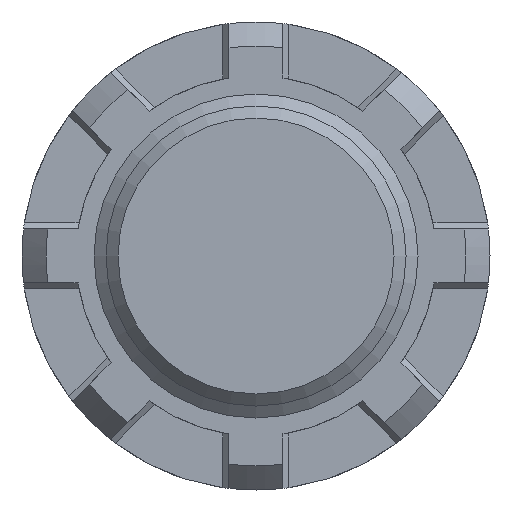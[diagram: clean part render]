
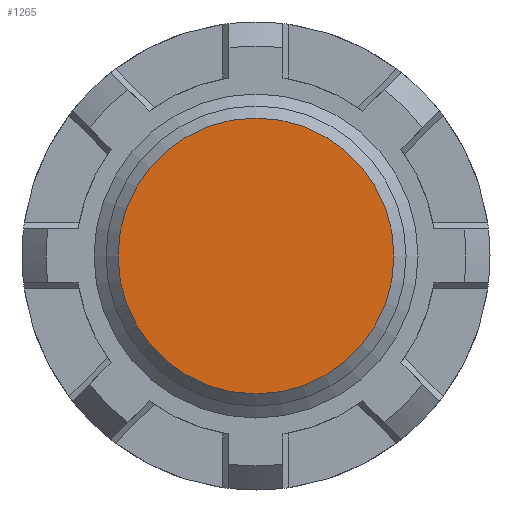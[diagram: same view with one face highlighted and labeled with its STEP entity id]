
A CAD part, front view. The second image highlights one B-rep face of the part: STEP entity #1265.
In plain terms, the highlighted planar face has unit normal (0, -1, 0).
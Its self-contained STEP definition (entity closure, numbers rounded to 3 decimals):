
#83=CIRCLE('',#1430,2.3);
#172=FACE_OUTER_BOUND('',#241,.T.);
#241=EDGE_LOOP('',(#1068));
#572=VERTEX_POINT('',#2236);
#756=EDGE_CURVE('',#572,#572,#83,.T.);
#1068=ORIENTED_EDGE('',*,*,#756,.F.);
#1206=PLANE('',#1433);
#1265=ADVANCED_FACE('',(#172),#1206,.T.);
#1430=AXIS2_PLACEMENT_3D('',#2237,#1801,#1802);
#1433=AXIS2_PLACEMENT_3D('',#2243,#1808,#1809);
#1801=DIRECTION('center_axis',(0.,1.,0.));
#1802=DIRECTION('ref_axis',(-1.,0.,0.));
#1808=DIRECTION('center_axis',(0.,-1.,0.));
#1809=DIRECTION('ref_axis',(0.,0.,-1.));
#2236=CARTESIAN_POINT('',(2.3,0.,0.));
#2237=CARTESIAN_POINT('Origin',(0.,0.,0.));
#2243=CARTESIAN_POINT('Origin',(0.,0.,0.));
